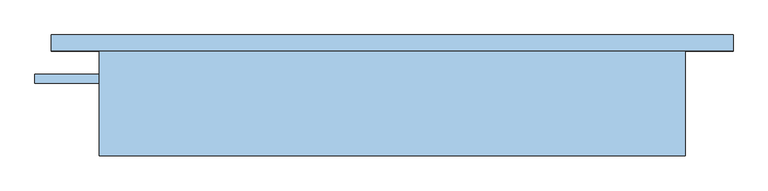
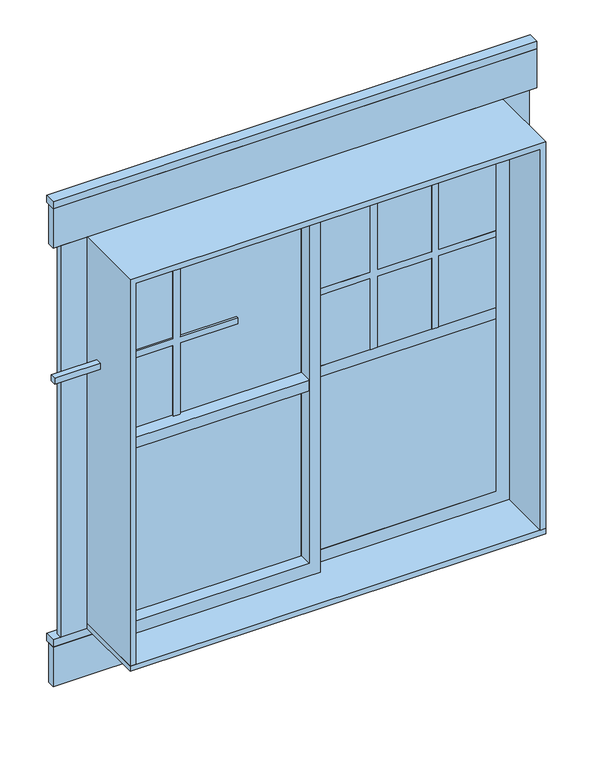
"""IFC4 building model written with IfcOpenShell, lengths in millimetres: window geometry, 窗_002 : 窗_002."""

from ifc_helpers import new_model, si_unit, frame, origin, place, context, project, spatial, polyline, outline, extrude, source, transform, mapped, element, save


def window_1db3b5fd(model_context):
    return source(origin(), model_context, "Body", "SweptSolid", [
        extrude(outline(polyline([(2012.95, 329.7), (2012.95, -367.8), (661.05, -367.8), (661.05, 329.7), (2012.95, 329.7)]), holes=[polyline([(1968.5, -329.7), (1968.5, 285.25), (705.5, 285.25), (705.5, -329.7), (1968.5, -329.7)])]), frame((0.0, 55.15, 0.0), z_axis=(0.0, 1.0, 0.0), x_axis=(0.0, 0.0, 1.0)), (0.0, 0.0, 1.0), 44.45),
        extrude(outline(polyline([(-1160.55, 163.1), (463.05, 163.1), (463.05, 125.0), (-1160.55, 125.0), (-1160.55, 163.1)])), frame((0.0, 0.0, 2171.7), z_axis=(0.0, 0.0, 1.0), x_axis=(1.0, 0.0, 0.0)), (0.0, 0.0, 1.0), 25.4),
        extrude(outline(polyline([(-1160.55, 150.4), (463.05, 150.4), (463.05, 125.0), (-1160.55, 125.0), (-1160.55, 150.4)])), frame((0.0, 0.0, 2032.0), z_axis=(0.0, 0.0, 1.0), x_axis=(1.0, 0.0, 0.0)), (0.0, 0.0, 1.0), 139.7),
        extrude(outline(polyline([(-1160.55, 150.4), (463.05, 150.4), (463.05, 125.0), (-1160.55, 125.0), (-1160.55, 150.4)])), frame((0.0, 0.0, 476.9), z_axis=(0.0, 0.0, 1.0), x_axis=(1.0, 0.0, 0.0)), (0.0, 0.0, 1.0), 139.7),
        extrude(outline(polyline([(-1160.55, 163.1), (463.05, 163.1), (463.05, 125.0), (-1160.55, 125.0), (-1160.55, 163.1)])), frame((0.0, 0.0, 616.6), z_axis=(0.0, 0.0, 1.0), x_axis=(1.0, 0.0, 0.0)), (0.0, 0.0, 1.0), 25.4),
        extrude(outline(polyline([(-1135.15, 144.05), (-1046.25, 144.05), (-1046.25, 125.0), (-1135.15, 125.0), (-1135.15, 144.05)])), frame((0.0, 0.0, 642.0), z_axis=(0.0, 0.0, 1.0), x_axis=(1.0, 0.0, 0.0)), (0.0, 0.0, 1.0), 1390.0),
        extrude(outline(polyline([(348.75, 144.05), (437.65, 144.05), (437.65, 125.0), (348.75, 125.0), (348.75, 144.05)])), frame((0.0, 0.0, 642.0), z_axis=(0.0, 0.0, 1.0), x_axis=(1.0, 0.0, 0.0)), (0.0, 0.0, 1.0), 1390.0),
        extrude(outline(polyline([(1630.6875, -561.6708333), (1968.5, -561.6708333), (1968.5, -583.8958333), (1630.6875, -583.8958333), (1630.6875, -766.6541667), (1968.5, -766.6541667), (1968.5, -788.8791667), (1630.6875, -788.8791667), (1630.6875, -982.75), (1608.4625, -982.75), (1608.4625, -788.8791667), (1356.05, -788.8791667), (1356.05, -766.6541667), (1608.4625, -766.6541667), (1608.4625, -583.8958333), (1356.05, -583.8958333), (1356.05, -561.6708333), (1608.4625, -561.6708333), (1608.4625, -367.8), (1630.6875, -367.8), (1630.6875, -561.6708333)])), frame((0.0, 82.55, 0.0), z_axis=(0.0, 1.0, 0.0), x_axis=(0.0, 0.0, 1.0)), (0.0, 0.0, 1.0), 31.75),
        extrude(outline(polyline([(1630.6875, -778.5708333), (1968.5, -778.5708333), (1968.5, -800.7958333), (1630.6875, -800.7958333), (1630.6875, -983.5541667), (1968.5, -983.5541667), (1968.5, -1005.7791667), (1630.6875, -1005.7791667), (1630.6875, -1199.65), (1608.4625, -1199.65), (1608.4625, -1005.7791667), (1356.05, -1005.7791667), (1356.05, -983.5541667), (1608.4625, -983.5541667), (1608.4625, -800.7958333), (1356.05, -800.7958333), (1356.05, -778.5708333), (1608.4625, -778.5708333), (1608.4625, -584.7), (1630.6875, -584.7), (1630.6875, -778.5708333)])), frame((0.0, 48.5865764, 0.0), z_axis=(0.0, 1.0, 0.0), x_axis=(0.0, 0.0, 1.0)), (0.0, 0.0, 1.0), 20.4130864),
        extrude(outline(polyline([(1630.6875, 91.3791667), (1968.5, 91.3791667), (1968.5, 69.1541667), (1630.6875, 69.1541667), (1630.6875, -113.6041667), (1968.5, -113.6041667), (1968.5, -135.8291667), (1630.6875, -135.8291667), (1630.6875, -329.7), (1608.4625, -329.7), (1608.4625, -135.8291667), (1356.05, -135.8291667), (1356.05, -113.6041667), (1608.4625, -113.6041667), (1608.4625, 69.1541667), (1356.05, 69.1541667), (1356.05, 91.3791667), (1608.4625, 91.3791667), (1608.4625, 285.25), (1630.6875, 285.25), (1630.6875, 91.3791667)])), frame((0.0, 55.15, 0.0), z_axis=(0.0, 1.0, 0.0), x_axis=(0.0, 0.0, 1.0)), (0.0, 0.0, 1.0), 31.75),
        extrude(outline(polyline([(-367.8, 10.7), (-982.75, 10.7), (-982.75, 55.15), (-367.8, 55.15), (-367.8, 10.7)])), frame((0.0, 0.0, 1317.95), z_axis=(0.0, 0.0, 1.0), x_axis=(1.0, 0.0, 0.0)), (0.0, 0.0, 1.0), 38.1),
        extrude(outline(polyline([(-329.7, 99.6), (285.25, 99.6), (285.25, 55.15), (-329.7, 55.15), (-329.7, 99.6)])), frame((0.0, 0.0, 1317.95), z_axis=(0.0, 0.0, 1.0), x_axis=(1.0, 0.0, 0.0)), (0.0, 0.0, 1.0), 38.1),
        extrude(outline(polyline([(-367.8, 55.15), (-982.75, 55.15), (-982.75, 68.9996628), (-367.8, 68.9996628), (-367.8, 55.15)])), frame((0.0, 0.0, 705.5), z_axis=(0.0, 0.0, 1.0), x_axis=(1.0, 0.0, 0.0)), (0.0, 0.0, 1.0), 1263.0),
        extrude(outline(polyline([(2012.95, -1027.2), (661.05, -1027.2), (661.05, -329.7), (2012.95, -329.7), (2012.95, -1027.2)]), holes=[polyline([(1968.5, -982.75), (1968.5, -367.8), (705.5, -367.8), (705.5, -982.75), (1968.5, -982.75)])]), frame((0.0, 10.7, 0.0), z_axis=(0.0, 1.0, 0.0), x_axis=(0.0, 0.0, 1.0)), (0.0, 0.0, 1.0), 44.45),
        extrude(outline(polyline([(2032.0, -1046.25), (661.05, -1046.25), (661.05, -1027.2), (2012.95, -1027.2), (2012.95, 329.7), (661.05, 329.7), (661.05, 348.75), (2032.0, 348.75), (2032.0, -1046.25)])), frame((0.0, -125.0, 0.0), z_axis=(0.0, 1.0, 0.0), x_axis=(0.0, 0.0, 1.0)), (0.0, 0.0, 1.0), 250.0),
        extrude(outline(polyline([(-1046.25, -125.0), (-1046.25, 125.0), (348.75, 125.0), (348.75, -125.0), (-1046.25, -125.0)])), frame((0.0, 0.0, 642.0), z_axis=(0.0, 0.0, 1.0), x_axis=(1.0, 0.0, 0.0)), (0.0, 0.0, 1.0), 19.05),
        extrude(outline(polyline([(285.25, 55.15), (-329.7, 55.15), (-329.7, 86.9), (285.25, 86.9), (285.25, 55.15)])), frame((0.0, 0.0, 705.5), z_axis=(0.0, 0.0, 1.0), x_axis=(1.0, 0.0, 0.0)), (0.0, 0.0, 1.0), 1263.0),
    ])


if __name__ == "__main__":
    model = new_model("IFC4")
    model_context = context("Model", 3, world=origin())
    ifc_project = project(units=[si_unit("LENGTHUNIT", "METRE", prefix="MILLI")], contexts=[model_context])
    site = spatial("IfcSite", under=ifc_project)
    building = spatial("IfcBuilding", under=site)
    placement = place(None, origin())
    window_shape = window_1db3b5fd(model_context)
    element("IfcWindow", 1, ObjectType="窗_002 : 窗_002", at=placement, inside=building, context=model_context, shape_type="MappedRepresentation", body=[
        mapped(window_shape, transform((0.0, 0.0, 0.0), x_axis=(1.0, 0.0, 0.0), y_axis=(0.0, 1.0, 0.0), z_axis=(0.0, 0.0, 1.0))),
    ])
    save(model, "model.ifc")
